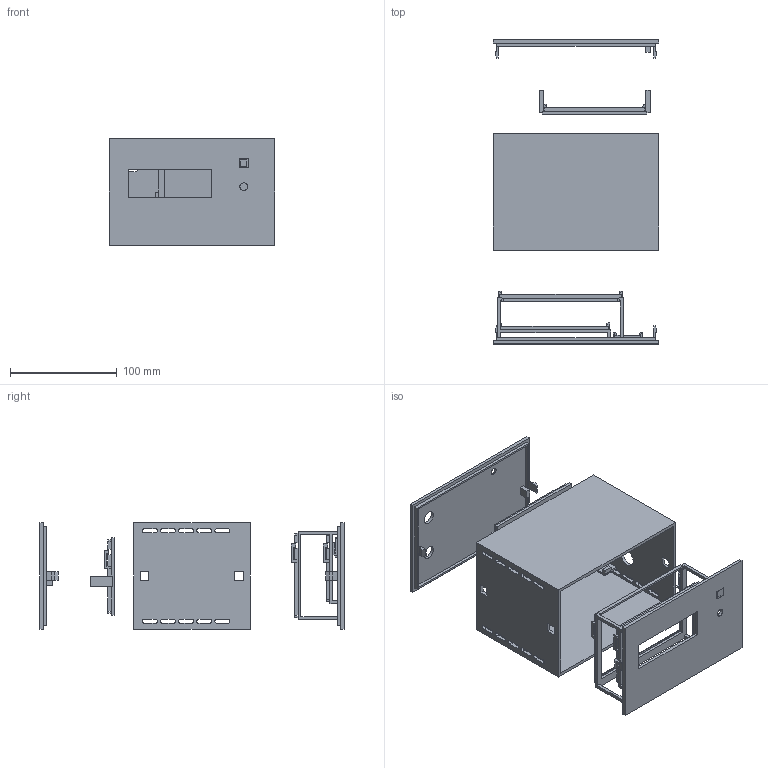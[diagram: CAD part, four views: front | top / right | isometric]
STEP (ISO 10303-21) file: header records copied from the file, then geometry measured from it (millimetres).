
FILE_DESCRIPTION(('Open CASCADE Model'),'2;1');
FILE_NAME('Open CASCADE Shape Model','2026-11-10T19:18:04',('Author'),( 'Open CASCADE'),'Open CASCADE STEP processor 7.8','Open CASCADE 7.8' ,'Unknown');
FILE_SCHEMA(('AUTOMOTIVE_DESIGN { 1 0 10303 214 1 1 1 1 }'));
Length unit declared in the file: millimetre
Products named in the file (7): Boitier_pieces_vue_eclatee; 01_Coque_ouverte; 02_Facade_supports_LCD_A; 03_Berceau_B; 04_Panneau_arriere; 05_Fenetre_translucide; 06_Cassette_BH1750
Assembly tree (6 placements, depth 2):
  Boitier_pieces_vue_eclatee
    01_Coque_ouverte
    02_Facade_supports_LCD_A
    03_Berceau_B
    04_Panneau_arriere
    05_Fenetre_translucide
    06_Cassette_BH1750
Bounding box: 155 x 285 x 100 mm (x, y, z)
Volume: 285786.8 mm3; surface area: 221207.1 mm2
Topology: 6 solids, 6 shells, 584 faces, 1647 edges, 1096 vertices
Faces by surface type: plane 538, cylinder 46
Full cylindrical faces by diameter (mm): 6.3 x1, 7.2 x1, 12.5 x2, 14 x1, 16 x1
Entity records: 40323 total; most frequent: CARTESIAN_POINT 6628, DIRECTION 6215, LINE 4757, VECTOR 4757, ORIENTED_EDGE 3294, PCURVE 3294, DEFINITIONAL_REPRESENTATION 3294, EDGE_CURVE 1647
